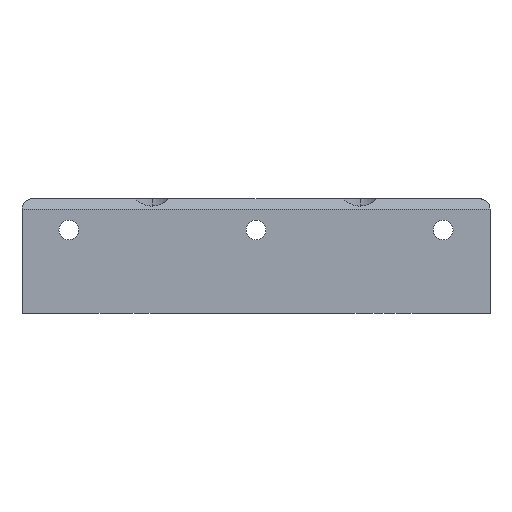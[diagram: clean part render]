
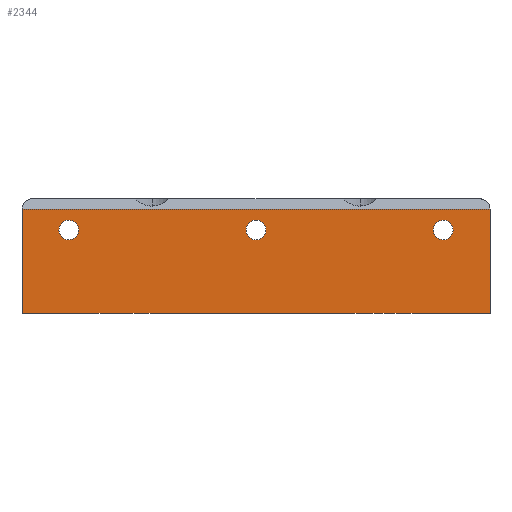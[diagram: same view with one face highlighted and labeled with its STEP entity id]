
A CAD part, left-side view. The second image highlights one B-rep face of the part: STEP entity #2344.
In plain terms, the highlighted planar face has unit normal (-1, 0, 0).
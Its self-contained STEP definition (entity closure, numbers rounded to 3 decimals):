
#29 = CARTESIAN_POINT ( 'NONE',  ( 87., -112.5, 74. ) ) ;
#148 = EDGE_CURVE ( 'NONE', #1279, #1693, #982, .T. ) ;
#165 = CARTESIAN_POINT ( 'NONE',  ( 87., 4.75, 64. ) ) ;
#170 = CIRCLE ( 'NONE', #4388, 4.75 ) ;
#229 = CARTESIAN_POINT ( 'NONE',  ( 87., 90., 64. ) ) ;
#348 = ORIENTED_EDGE ( 'NONE', *, *, #1204, .T. ) ;
#451 = DIRECTION ( 'NONE',  ( 0., 0., 1. ) ) ;
#574 = EDGE_CURVE ( 'NONE', #3362, #4616, #4162, .T. ) ;
#803 = CIRCLE ( 'NONE', #4288, 4.75 ) ;
#837 = FACE_OUTER_BOUND ( 'NONE', #4161, .T. ) ;
#921 = DIRECTION ( 'NONE',  ( 1., 0., 0. ) ) ;
#943 = ORIENTED_EDGE ( 'NONE', *, *, #4060, .T. ) ;
#975 = VERTEX_POINT ( 'NONE', #165 ) ;
#982 = CIRCLE ( 'NONE', #1644, 4.75 ) ;
#1117 = DIRECTION ( 'NONE',  ( 1., 0., 0. ) ) ;
#1180 = ORIENTED_EDGE ( 'NONE', *, *, #3058, .T. ) ;
#1204 = EDGE_CURVE ( 'NONE', #4318, #2346, #4147, .T. ) ;
#1254 = CARTESIAN_POINT ( 'NONE',  ( 87., -85.25, 64. ) ) ;
#1276 = DIRECTION ( 'NONE',  ( 0., 0., 1. ) ) ;
#1279 = VERTEX_POINT ( 'NONE', #3517 ) ;
#1346 = ORIENTED_EDGE ( 'NONE', *, *, #574, .T. ) ;
#1432 = CARTESIAN_POINT ( 'NONE',  ( 87., 112.5, 74. ) ) ;
#1499 = FACE_BOUND ( 'NONE', #4582, .T. ) ;
#1541 = VECTOR ( 'NONE', #3504, 1000. ) ;
#1624 = DIRECTION ( 'NONE',  ( 1., 0., 0. ) ) ;
#1635 = LINE ( 'NONE', #4160, #4585 ) ;
#1644 = AXIS2_PLACEMENT_3D ( 'NONE', #3463, #1117, #5098 ) ;
#1693 = VERTEX_POINT ( 'NONE', #1254 ) ;
#1696 = CARTESIAN_POINT ( 'NONE',  ( 87., -90., 64. ) ) ;
#1728 = CARTESIAN_POINT ( 'NONE',  ( 87., 85.25, 64. ) ) ;
#1925 = CARTESIAN_POINT ( 'NONE',  ( 87., 0., 64. ) ) ;
#1948 = DIRECTION ( 'NONE',  ( 0., 0., 1. ) ) ;
#1979 = FACE_BOUND ( 'NONE', #2023, .T. ) ;
#1984 = VECTOR ( 'NONE', #3470, 1000. ) ;
#2023 = EDGE_LOOP ( 'NONE', ( #5082, #4227 ) ) ;
#2160 = VERTEX_POINT ( 'NONE', #1432 ) ;
#2344 = ADVANCED_FACE ( 'NONE', ( #837, #1979, #2544, #1499 ), #4491, .F. ) ;
#2346 = VERTEX_POINT ( 'NONE', #29 ) ;
#2350 = AXIS2_PLACEMENT_3D ( 'NONE', #3683, #2843, #1276 ) ;
#2441 = AXIS2_PLACEMENT_3D ( 'NONE', #2857, #1624, #2489 ) ;
#2489 = DIRECTION ( 'NONE',  ( 0., 1., 0. ) ) ;
#2544 = FACE_BOUND ( 'NONE', #3256, .T. ) ;
#2608 = EDGE_CURVE ( 'NONE', #1693, #1279, #4448, .T. ) ;
#2625 = DIRECTION ( 'NONE',  ( 0., 0., 1. ) ) ;
#2698 = AXIS2_PLACEMENT_3D ( 'NONE', #229, #5076, #2625 ) ;
#2843 = DIRECTION ( 'NONE',  ( 1., 0., 0. ) ) ;
#2857 = CARTESIAN_POINT ( 'NONE',  ( 87., -112.5, 24. ) ) ;
#2938 = DIRECTION ( 'NONE',  ( 0., 0., 1. ) ) ;
#2963 = ORIENTED_EDGE ( 'NONE', *, *, #4511, .F. ) ;
#3058 = EDGE_CURVE ( 'NONE', #3690, #4318, #3904, .T. ) ;
#3099 = ORIENTED_EDGE ( 'NONE', *, *, #4566, .F. ) ;
#3109 = AXIS2_PLACEMENT_3D ( 'NONE', #1696, #921, #4868 ) ;
#3169 = CARTESIAN_POINT ( 'NONE',  ( 87., 112.5, 24. ) ) ;
#3183 = EDGE_CURVE ( 'NONE', #975, #3975, #803, .T. ) ;
#3211 = EDGE_CURVE ( 'NONE', #4616, #3362, #5111, .T. ) ;
#3222 = DIRECTION ( 'NONE',  ( 1., 0., 0. ) ) ;
#3256 = EDGE_LOOP ( 'NONE', ( #3617, #943 ) ) ;
#3268 = CARTESIAN_POINT ( 'NONE',  ( 87., 0., 64. ) ) ;
#3289 = ORIENTED_EDGE ( 'NONE', *, *, #3211, .T. ) ;
#3362 = VERTEX_POINT ( 'NONE', #4282 ) ;
#3463 = CARTESIAN_POINT ( 'NONE',  ( 87., -90., 64. ) ) ;
#3470 = DIRECTION ( 'NONE',  ( 0., 0., 1. ) ) ;
#3504 = DIRECTION ( 'NONE',  ( 0., -1., 0. ) ) ;
#3517 = CARTESIAN_POINT ( 'NONE',  ( 87., -94.75, 64. ) ) ;
#3617 = ORIENTED_EDGE ( 'NONE', *, *, #3183, .T. ) ;
#3683 = CARTESIAN_POINT ( 'NONE',  ( 87., 90., 64. ) ) ;
#3690 = VERTEX_POINT ( 'NONE', #3169 ) ;
#3840 = VECTOR ( 'NONE', #2938, 1000. ) ;
#3904 = LINE ( 'NONE', #4664, #1541 ) ;
#3975 = VERTEX_POINT ( 'NONE', #5171 ) ;
#4060 = EDGE_CURVE ( 'NONE', #3975, #975, #170, .T. ) ;
#4101 = LINE ( 'NONE', #4915, #3840 ) ;
#4147 = LINE ( 'NONE', #4339, #1984 ) ;
#4160 = CARTESIAN_POINT ( 'NONE',  ( 87., 0., 74. ) ) ;
#4161 = EDGE_LOOP ( 'NONE', ( #2963, #3099, #1180, #348 ) ) ;
#4162 = CIRCLE ( 'NONE', #2698, 4.75 ) ;
#4178 = DIRECTION ( 'NONE',  ( 0., -1., 0. ) ) ;
#4227 = ORIENTED_EDGE ( 'NONE', *, *, #148, .T. ) ;
#4282 = CARTESIAN_POINT ( 'NONE',  ( 87., 94.75, 64. ) ) ;
#4288 = AXIS2_PLACEMENT_3D ( 'NONE', #3268, #3222, #451 ) ;
#4318 = VERTEX_POINT ( 'NONE', #4795 ) ;
#4339 = CARTESIAN_POINT ( 'NONE',  ( 87., -112.5, 49. ) ) ;
#4388 = AXIS2_PLACEMENT_3D ( 'NONE', #1925, #4753, #1948 ) ;
#4448 = CIRCLE ( 'NONE', #3109, 4.75 ) ;
#4491 = PLANE ( 'NONE',  #2441 ) ;
#4511 = EDGE_CURVE ( 'NONE', #2160, #2346, #1635, .T. ) ;
#4566 = EDGE_CURVE ( 'NONE', #3690, #2160, #4101, .T. ) ;
#4582 = EDGE_LOOP ( 'NONE', ( #1346, #3289 ) ) ;
#4585 = VECTOR ( 'NONE', #4178, 1000. ) ;
#4616 = VERTEX_POINT ( 'NONE', #1728 ) ;
#4664 = CARTESIAN_POINT ( 'NONE',  ( 87., 0., 24. ) ) ;
#4753 = DIRECTION ( 'NONE',  ( 1., 0., 0. ) ) ;
#4795 = CARTESIAN_POINT ( 'NONE',  ( 87., -112.5, 24. ) ) ;
#4868 = DIRECTION ( 'NONE',  ( 0., 0., 1. ) ) ;
#4915 = CARTESIAN_POINT ( 'NONE',  ( 87., 112.5, 49. ) ) ;
#5076 = DIRECTION ( 'NONE',  ( 1., 0., 0. ) ) ;
#5082 = ORIENTED_EDGE ( 'NONE', *, *, #2608, .T. ) ;
#5098 = DIRECTION ( 'NONE',  ( 0., 0., 1. ) ) ;
#5111 = CIRCLE ( 'NONE', #2350, 4.75 ) ;
#5171 = CARTESIAN_POINT ( 'NONE',  ( 87., -4.75, 64. ) ) ;
